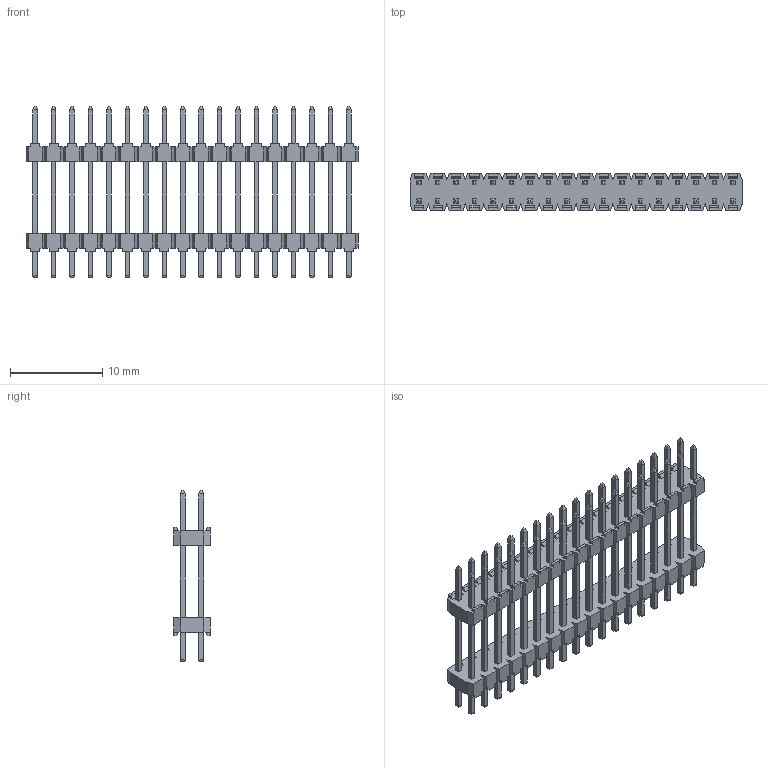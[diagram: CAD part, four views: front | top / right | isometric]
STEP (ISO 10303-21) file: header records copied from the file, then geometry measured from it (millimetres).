
FILE_DESCRIPTION(/* description */ (''),/* implementation_level */ '2;1');
FILE_NAME(/* name */ '951436-8012206-AR',/* time_stamp */ '2007-03-14T08:26:22+01:00',/* author */ (''),/* organization */ (''),/* preprocessor_version */ 'ST-DEVELOPER v9',/* originating_system */ 'UGS - NX 4.0',/* authorisation */ '');
FILE_SCHEMA (('AUTOMOTIVE_DESIGN { 1 0 10303 214 1 1 1 1 }'));
Length unit declared in the file: millimetre
Products named in the file (1): 951436-8012206-AR
Bounding box: 36 x 4 x 18.6 mm (x, y, z)
Volume: 589.2 mm3; surface area: 2049.7 mm2
Topology: 1 solids, 1 shells, 1304 faces, 3396 edges, 2168 vertices
Faces by surface type: plane 1160, cylinder 144
Entity records: 39004 total; most frequent: CARTESIAN_POINT 6869, ORIENTED_EDGE 6792, DIRECTION 6150, EDGE_CURVE 3396, LINE 3252, VECTOR 3252, VERTEX_POINT 2168, AXIS2_PLACEMENT_3D 1449
